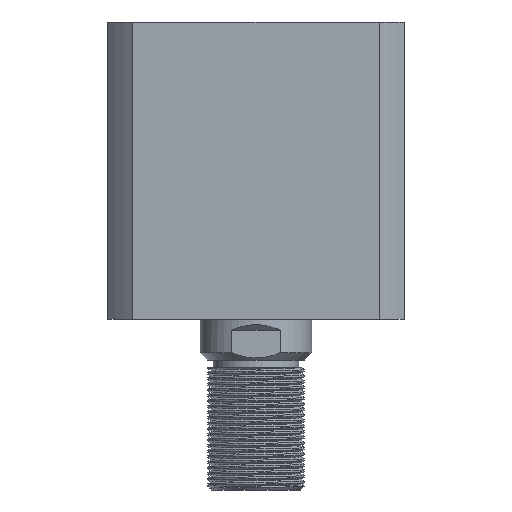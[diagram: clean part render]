
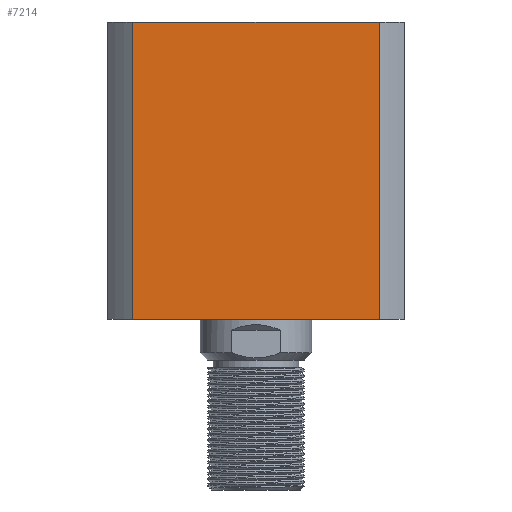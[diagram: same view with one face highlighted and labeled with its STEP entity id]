
A CAD part, left-side view. The second image highlights one B-rep face of the part: STEP entity #7214.
In plain terms, the highlighted planar face has unit normal (-1, 0, 0).
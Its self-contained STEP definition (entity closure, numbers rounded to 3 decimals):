
#90 = ORIENTED_EDGE ( 'NONE', *, *, #13881, .T. ) ;
#172 = VECTOR ( 'NONE', #8311, 1000. ) ;
#1047 = LINE ( 'NONE', #4286, #172 ) ;
#1467 = CARTESIAN_POINT ( 'NONE',  ( -40., 33.226, 40. ) ) ;
#3012 = DIRECTION ( 'NONE',  ( 0., 0., -1. ) ) ;
#3374 = CARTESIAN_POINT ( 'NONE',  ( -40., 33.226, -40. ) ) ;
#4241 = EDGE_CURVE ( 'NONE', #7527, #15892, #16306, .T. ) ;
#4286 = CARTESIAN_POINT ( 'NONE',  ( -40., 33.226, 40. ) ) ;
#4397 = VERTEX_POINT ( 'NONE', #7200 ) ;
#5395 = CARTESIAN_POINT ( 'NONE',  ( -40., 33.226, -40. ) ) ;
#6418 = VECTOR ( 'NONE', #3012, 1000. ) ;
#6450 = VERTEX_POINT ( 'NONE', #5395 ) ;
#6590 = VECTOR ( 'NONE', #9594, 1000. ) ;
#7200 = CARTESIAN_POINT ( 'NONE',  ( -40., -33.226, -40. ) ) ;
#7214 = ADVANCED_FACE ( 'NONE', ( #7625 ), #14726, .F. ) ;
#7252 = ORIENTED_EDGE ( 'NONE', *, *, #4241, .F. ) ;
#7527 = VERTEX_POINT ( 'NONE', #17409 ) ;
#7615 = EDGE_CURVE ( 'NONE', #6450, #4397, #8557, .T. ) ;
#7625 = FACE_OUTER_BOUND ( 'NONE', #10123, .T. ) ;
#8311 = DIRECTION ( 'NONE',  ( 0., 0., -1. ) ) ;
#8557 = LINE ( 'NONE', #3374, #11816 ) ;
#8774 = DIRECTION ( 'NONE',  ( 0., -1., 0. ) ) ;
#9404 = ORIENTED_EDGE ( 'NONE', *, *, #13503, .F. ) ;
#9413 = DIRECTION ( 'NONE',  ( 0., 1., 0. ) ) ;
#9594 = DIRECTION ( 'NONE',  ( 0., -1., 0. ) ) ;
#9648 = AXIS2_PLACEMENT_3D ( 'NONE', #17654, #13332, #9413 ) ;
#10123 = EDGE_LOOP ( 'NONE', ( #11854, #9404, #7252, #90 ) ) ;
#11383 = CARTESIAN_POINT ( 'NONE',  ( -40., -33.226, 40. ) ) ;
#11816 = VECTOR ( 'NONE', #8774, 1000. ) ;
#11854 = ORIENTED_EDGE ( 'NONE', *, *, #7615, .T. ) ;
#13332 = DIRECTION ( 'NONE',  ( 1., 0., 0. ) ) ;
#13503 = EDGE_CURVE ( 'NONE', #15892, #4397, #14427, .T. ) ;
#13881 = EDGE_CURVE ( 'NONE', #7527, #6450, #1047, .T. ) ;
#14427 = LINE ( 'NONE', #11383, #6418 ) ;
#14726 = PLANE ( 'NONE',  #9648 ) ;
#15892 = VERTEX_POINT ( 'NONE', #16685 ) ;
#16306 = LINE ( 'NONE', #1467, #6590 ) ;
#16685 = CARTESIAN_POINT ( 'NONE',  ( -40., -33.226, 40. ) ) ;
#17409 = CARTESIAN_POINT ( 'NONE',  ( -40., 33.226, 40. ) ) ;
#17654 = CARTESIAN_POINT ( 'NONE',  ( -40., 33.226, 40. ) ) ;
